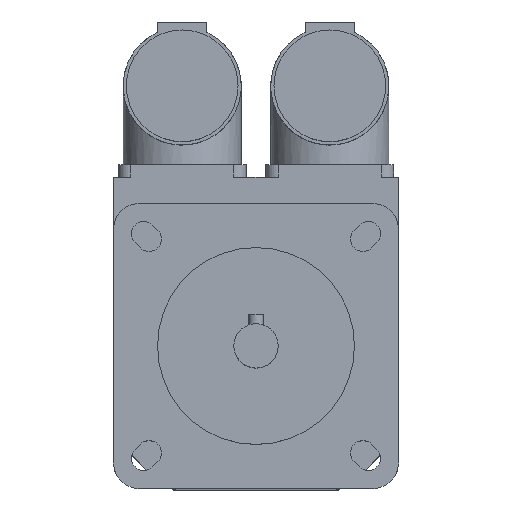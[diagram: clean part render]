
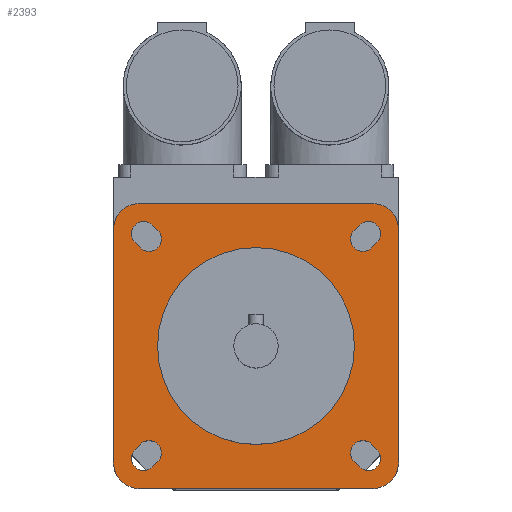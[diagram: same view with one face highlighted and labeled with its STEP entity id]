
A CAD part, top view. The second image highlights one B-rep face of the part: STEP entity #2393.
In plain terms, the highlighted planar face has unit normal (0, 0, 1).
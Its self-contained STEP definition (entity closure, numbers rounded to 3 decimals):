
#32=FACE_BOUND('',#432,.T.);
#33=FACE_BOUND('',#433,.T.);
#34=FACE_BOUND('',#434,.T.);
#35=FACE_BOUND('',#435,.T.);
#36=FACE_BOUND('',#436,.T.);
#51=CIRCLE('',#2486,20.);
#88=CIRCLE('',#2550,2.5);
#92=CIRCLE('',#2557,2.5);
#93=CIRCLE('',#2560,2.5);
#94=CIRCLE('',#2563,2.5);
#104=CIRCLE('',#2578,2.5);
#105=CIRCLE('',#2581,2.5);
#106=CIRCLE('',#2584,2.5);
#107=CIRCLE('',#2587,2.5);
#108=CIRCLE('',#2589,5.5);
#109=CIRCLE('',#2591,5.5);
#110=CIRCLE('',#2593,5.5);
#111=CIRCLE('',#2595,5.5);
#290=FACE_OUTER_BOUND('',#431,.T.);
#431=EDGE_LOOP('',(#1839,#1840,#1841,#1842,#1843,#1844,#1845,#1846));
#432=EDGE_LOOP('',(#1847));
#433=EDGE_LOOP('',(#1848,#1849,#1850,#1851));
#434=EDGE_LOOP('',(#1852,#1853,#1854,#1855));
#435=EDGE_LOOP('',(#1856,#1857,#1858,#1859));
#436=EDGE_LOOP('',(#1860,#1861,#1862,#1863));
#578=LINE('',#3719,#799);
#586=LINE('',#3743,#807);
#590=LINE('',#3753,#811);
#594=LINE('',#3763,#815);
#610=LINE('',#3814,#831);
#612=LINE('',#3820,#833);
#614=LINE('',#3826,#835);
#616=LINE('',#3832,#837);
#625=LINE('',#3860,#846);
#626=LINE('',#3861,#847);
#627=LINE('',#3862,#848);
#628=LINE('',#3863,#849);
#799=VECTOR('',#2944,1.5);
#807=VECTOR('',#2966,1.5);
#811=VECTOR('',#2976,1.5);
#815=VECTOR('',#2986,1.5);
#831=VECTOR('',#3032,1.5);
#833=VECTOR('',#3040,1.5);
#835=VECTOR('',#3048,1.5);
#837=VECTOR('',#3056,1.5);
#846=VECTOR('',#3087,47.);
#847=VECTOR('',#3088,47.);
#848=VECTOR('',#3089,47.);
#849=VECTOR('',#3090,47.);
#974=VERTEX_POINT('',#3540);
#1039=VERTEX_POINT('',#3716);
#1040=VERTEX_POINT('',#3718);
#1041=VERTEX_POINT('',#3722);
#1048=VERTEX_POINT('',#3740);
#1049=VERTEX_POINT('',#3742);
#1050=VERTEX_POINT('',#3746);
#1051=VERTEX_POINT('',#3750);
#1052=VERTEX_POINT('',#3752);
#1053=VERTEX_POINT('',#3756);
#1054=VERTEX_POINT('',#3760);
#1055=VERTEX_POINT('',#3762);
#1056=VERTEX_POINT('',#3766);
#1075=VERTEX_POINT('',#3812);
#1076=VERTEX_POINT('',#3818);
#1077=VERTEX_POINT('',#3824);
#1078=VERTEX_POINT('',#3830);
#1079=VERTEX_POINT('',#3836);
#1080=VERTEX_POINT('',#3838);
#1081=VERTEX_POINT('',#3842);
#1082=VERTEX_POINT('',#3844);
#1083=VERTEX_POINT('',#3848);
#1084=VERTEX_POINT('',#3850);
#1085=VERTEX_POINT('',#3854);
#1086=VERTEX_POINT('',#3856);
#1215=EDGE_CURVE('',#974,#974,#51,.T.);
#1301=EDGE_CURVE('',#1040,#1039,#578,.T.);
#1304=EDGE_CURVE('',#1039,#1041,#88,.T.);
#1313=EDGE_CURVE('',#1049,#1048,#586,.T.);
#1316=EDGE_CURVE('',#1048,#1050,#92,.T.);
#1318=EDGE_CURVE('',#1052,#1051,#590,.T.);
#1321=EDGE_CURVE('',#1051,#1053,#93,.T.);
#1323=EDGE_CURVE('',#1055,#1054,#594,.T.);
#1326=EDGE_CURVE('',#1054,#1056,#94,.T.);
#1349=EDGE_CURVE('',#1053,#1075,#610,.T.);
#1350=EDGE_CURVE('',#1075,#1052,#104,.T.);
#1352=EDGE_CURVE('',#1050,#1076,#612,.T.);
#1353=EDGE_CURVE('',#1076,#1049,#105,.T.);
#1355=EDGE_CURVE('',#1056,#1077,#614,.T.);
#1356=EDGE_CURVE('',#1077,#1055,#106,.T.);
#1358=EDGE_CURVE('',#1041,#1078,#616,.T.);
#1359=EDGE_CURVE('',#1078,#1040,#107,.T.);
#1361=EDGE_CURVE('',#1080,#1079,#108,.T.);
#1364=EDGE_CURVE('',#1082,#1081,#109,.T.);
#1367=EDGE_CURVE('',#1084,#1083,#110,.T.);
#1370=EDGE_CURVE('',#1086,#1085,#111,.T.);
#1372=EDGE_CURVE('',#1079,#1086,#625,.T.);
#1373=EDGE_CURVE('',#1085,#1084,#626,.T.);
#1374=EDGE_CURVE('',#1083,#1082,#627,.T.);
#1375=EDGE_CURVE('',#1081,#1080,#628,.T.);
#1839=ORIENTED_EDGE('',*,*,#1372,.T.);
#1840=ORIENTED_EDGE('',*,*,#1370,.T.);
#1841=ORIENTED_EDGE('',*,*,#1373,.T.);
#1842=ORIENTED_EDGE('',*,*,#1367,.T.);
#1843=ORIENTED_EDGE('',*,*,#1374,.T.);
#1844=ORIENTED_EDGE('',*,*,#1364,.T.);
#1845=ORIENTED_EDGE('',*,*,#1375,.T.);
#1846=ORIENTED_EDGE('',*,*,#1361,.T.);
#1847=ORIENTED_EDGE('',*,*,#1215,.T.);
#1848=ORIENTED_EDGE('',*,*,#1349,.T.);
#1849=ORIENTED_EDGE('',*,*,#1350,.T.);
#1850=ORIENTED_EDGE('',*,*,#1318,.T.);
#1851=ORIENTED_EDGE('',*,*,#1321,.T.);
#1852=ORIENTED_EDGE('',*,*,#1352,.T.);
#1853=ORIENTED_EDGE('',*,*,#1353,.T.);
#1854=ORIENTED_EDGE('',*,*,#1313,.T.);
#1855=ORIENTED_EDGE('',*,*,#1316,.T.);
#1856=ORIENTED_EDGE('',*,*,#1355,.T.);
#1857=ORIENTED_EDGE('',*,*,#1356,.T.);
#1858=ORIENTED_EDGE('',*,*,#1323,.T.);
#1859=ORIENTED_EDGE('',*,*,#1326,.T.);
#1860=ORIENTED_EDGE('',*,*,#1358,.T.);
#1861=ORIENTED_EDGE('',*,*,#1359,.T.);
#1862=ORIENTED_EDGE('',*,*,#1301,.T.);
#1863=ORIENTED_EDGE('',*,*,#1304,.T.);
#2297=PLANE('',#2596);
#2393=ADVANCED_FACE('',(#290,#32,#33,#34,#35,#36),#2297,.T.);
#2486=AXIS2_PLACEMENT_3D('',#3541,#2769,#2770);
#2550=AXIS2_PLACEMENT_3D('',#3724,#2949,#2950);
#2557=AXIS2_PLACEMENT_3D('',#3748,#2971,#2972);
#2560=AXIS2_PLACEMENT_3D('',#3758,#2981,#2982);
#2563=AXIS2_PLACEMENT_3D('',#3768,#2991,#2992);
#2578=AXIS2_PLACEMENT_3D('',#3816,#3035,#3036);
#2581=AXIS2_PLACEMENT_3D('',#3822,#3043,#3044);
#2584=AXIS2_PLACEMENT_3D('',#3828,#3051,#3052);
#2587=AXIS2_PLACEMENT_3D('',#3834,#3059,#3060);
#2589=AXIS2_PLACEMENT_3D('',#3839,#3064,#3065);
#2591=AXIS2_PLACEMENT_3D('',#3845,#3070,#3071);
#2593=AXIS2_PLACEMENT_3D('',#3851,#3076,#3077);
#2595=AXIS2_PLACEMENT_3D('',#3857,#3082,#3083);
#2596=AXIS2_PLACEMENT_3D('',#3859,#3085,#3086);
#2769=DIRECTION('center_axis',(0.,0.,-1.));
#2770=DIRECTION('ref_axis',(-1.,0.,0.));
#2944=DIRECTION('',(-0.707,-0.707,0.));
#2949=DIRECTION('center_axis',(0.,0.,-1.));
#2950=DIRECTION('ref_axis',(0.707,-0.707,0.));
#2966=DIRECTION('',(-0.707,0.707,0.));
#2971=DIRECTION('center_axis',(0.,0.,-1.));
#2972=DIRECTION('ref_axis',(-0.707,-0.707,0.));
#2976=DIRECTION('',(-0.707,-0.707,0.));
#2981=DIRECTION('center_axis',(0.,0.,-1.));
#2982=DIRECTION('ref_axis',(0.707,-0.707,0.));
#2986=DIRECTION('',(-0.707,0.707,0.));
#2991=DIRECTION('center_axis',(0.,0.,-1.));
#2992=DIRECTION('ref_axis',(-0.707,-0.707,0.));
#3032=DIRECTION('',(0.707,0.707,0.));
#3035=DIRECTION('center_axis',(0.,0.,-1.));
#3036=DIRECTION('ref_axis',(-0.707,0.707,0.));
#3040=DIRECTION('',(0.707,-0.707,0.));
#3043=DIRECTION('center_axis',(0.,0.,-1.));
#3044=DIRECTION('ref_axis',(0.707,0.707,0.));
#3048=DIRECTION('',(0.707,-0.707,0.));
#3051=DIRECTION('center_axis',(0.,0.,-1.));
#3052=DIRECTION('ref_axis',(0.707,0.707,0.));
#3056=DIRECTION('',(0.707,0.707,0.));
#3059=DIRECTION('center_axis',(0.,0.,-1.));
#3060=DIRECTION('ref_axis',(-0.707,0.707,0.));
#3064=DIRECTION('center_axis',(0.,0.,1.));
#3065=DIRECTION('ref_axis',(1.,0.,0.));
#3070=DIRECTION('center_axis',(0.,0.,1.));
#3071=DIRECTION('ref_axis',(0.,-1.,0.));
#3076=DIRECTION('center_axis',(0.,0.,1.));
#3077=DIRECTION('ref_axis',(-1.,0.,0.));
#3082=DIRECTION('center_axis',(0.,0.,1.));
#3083=DIRECTION('ref_axis',(0.,1.,0.));
#3085=DIRECTION('center_axis',(0.,0.,1.));
#3086=DIRECTION('ref_axis',(1.,0.,0.));
#3087=DIRECTION('',(-1.,0.,0.));
#3088=DIRECTION('',(0.,-1.,0.));
#3089=DIRECTION('',(1.,0.,0.));
#3090=DIRECTION('',(0.,1.,0.));
#3540=CARTESIAN_POINT('',(20.,0.,110.5));
#3541=CARTESIAN_POINT('Origin',(0.,0.,110.5));
#3716=CARTESIAN_POINT('',(-21.036,-24.572,110.5));
#3718=CARTESIAN_POINT('',(-19.976,-23.511,110.5));
#3719=CARTESIAN_POINT('',(-9.634,-13.17,110.5));
#3722=CARTESIAN_POINT('',(-24.572,-21.036,110.5));
#3724=CARTESIAN_POINT('Origin',(-22.804,-22.804,110.5));
#3740=CARTESIAN_POINT('',(-24.572,21.036,110.5));
#3742=CARTESIAN_POINT('',(-23.511,19.976,110.5));
#3743=CARTESIAN_POINT('',(-13.17,9.634,110.5));
#3746=CARTESIAN_POINT('',(-21.036,24.572,110.5));
#3748=CARTESIAN_POINT('Origin',(-22.804,22.804,110.5));
#3750=CARTESIAN_POINT('',(23.511,19.976,110.5));
#3752=CARTESIAN_POINT('',(24.572,21.036,110.5));
#3753=CARTESIAN_POINT('',(12.64,9.104,110.5));
#3756=CARTESIAN_POINT('',(19.976,23.511,110.5));
#3758=CARTESIAN_POINT('Origin',(21.744,21.744,110.5));
#3760=CARTESIAN_POINT('',(19.976,-23.511,110.5));
#3762=CARTESIAN_POINT('',(21.036,-24.572,110.5));
#3763=CARTESIAN_POINT('',(9.104,-12.64,110.5));
#3766=CARTESIAN_POINT('',(23.511,-19.976,110.5));
#3768=CARTESIAN_POINT('Origin',(21.744,-21.744,110.5));
#3812=CARTESIAN_POINT('',(21.036,24.572,110.5));
#3814=CARTESIAN_POINT('',(9.634,13.17,110.5));
#3816=CARTESIAN_POINT('Origin',(22.804,22.804,110.5));
#3818=CARTESIAN_POINT('',(-19.976,23.511,110.5));
#3820=CARTESIAN_POINT('',(-9.104,12.64,110.5));
#3822=CARTESIAN_POINT('Origin',(-21.744,21.744,110.5));
#3824=CARTESIAN_POINT('',(24.572,-21.036,110.5));
#3826=CARTESIAN_POINT('',(13.17,-9.634,110.5));
#3828=CARTESIAN_POINT('Origin',(22.804,-22.804,110.5));
#3830=CARTESIAN_POINT('',(-23.511,-19.976,110.5));
#3832=CARTESIAN_POINT('',(-12.64,-9.104,110.5));
#3834=CARTESIAN_POINT('Origin',(-21.744,-21.744,110.5));
#3836=CARTESIAN_POINT('',(23.5,29.,110.5));
#3838=CARTESIAN_POINT('',(29.,23.5,110.5));
#3839=CARTESIAN_POINT('Origin',(23.5,23.5,110.5));
#3842=CARTESIAN_POINT('',(29.,-23.5,110.5));
#3844=CARTESIAN_POINT('',(23.5,-29.,110.5));
#3845=CARTESIAN_POINT('Origin',(23.5,-23.5,110.5));
#3848=CARTESIAN_POINT('',(-23.5,-29.,110.5));
#3850=CARTESIAN_POINT('',(-29.,-23.5,110.5));
#3851=CARTESIAN_POINT('Origin',(-23.5,-23.5,110.5));
#3854=CARTESIAN_POINT('',(-29.,23.5,110.5));
#3856=CARTESIAN_POINT('',(-23.5,29.,110.5));
#3857=CARTESIAN_POINT('Origin',(-23.5,23.5,110.5));
#3859=CARTESIAN_POINT('Origin',(0.,0.,
110.5));
#3860=CARTESIAN_POINT('',(23.5,29.,110.5));
#3861=CARTESIAN_POINT('',(-29.,23.5,110.5));
#3862=CARTESIAN_POINT('',(-23.5,-29.,110.5));
#3863=CARTESIAN_POINT('',(29.,-23.5,110.5));
